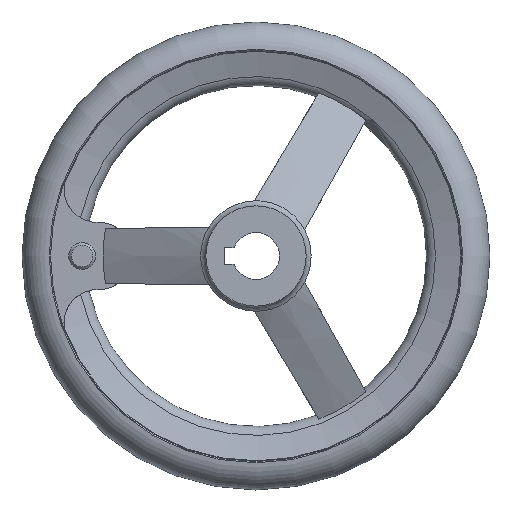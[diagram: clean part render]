
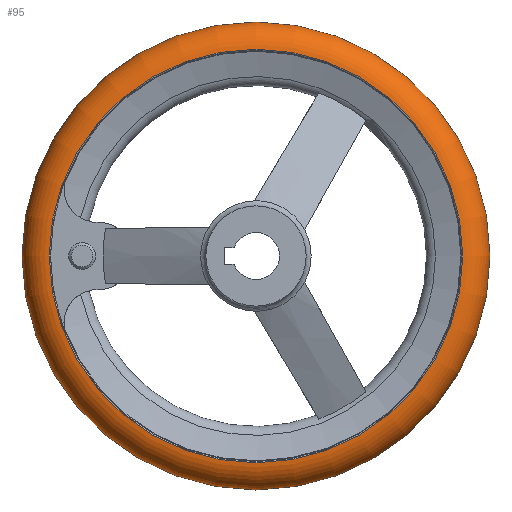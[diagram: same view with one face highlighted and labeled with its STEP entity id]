
A CAD part, left-side view. The second image highlights one B-rep face of the part: STEP entity #95.
In plain terms, the highlighted toroidal (fillet/blend) face has major radius 61.492 mm and minor radius 8.508 mm.
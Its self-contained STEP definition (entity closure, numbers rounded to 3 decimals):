
#95 = ADVANCED_FACE( '', ( #177, #178, #179 ), #180, .T. );
#177 = FACE_BOUND( '', #334, .T. );
#178 = FACE_OUTER_BOUND( '', #335, .T. );
#179 = FACE_OUTER_BOUND( '', #336, .T. );
#180 = TOROIDAL_SURFACE( '', #337, 61.492, 8.508 );
#334 = VERTEX_LOOP( '', #575 );
#335 = EDGE_LOOP( '', ( #576 ) );
#336 = EDGE_LOOP( '', ( #577 ) );
#337 = AXIS2_PLACEMENT_3D( '', #578, #579, #580 );
#575 = VERTEX_POINT( '', #860 );
#576 = ORIENTED_EDGE( '', *, *, #861, .T. );
#577 = ORIENTED_EDGE( '', *, *, #862, .F. );
#578 = CARTESIAN_POINT( '', ( 30.5, 0., 0. ) );
#579 = DIRECTION( '', ( 1., 0., 0. ) );
#580 = DIRECTION( '', ( 0., 1., 0. ) );
#860 = CARTESIAN_POINT( '', ( 30.5, 70., 0. ) );
#861 = EDGE_CURVE( '', #1036, #1036, #1037, .T. );
#862 = EDGE_CURVE( '', #1038, #1038, #1039, .T. );
#1036 = VERTEX_POINT( '', #1609 );
#1037 = CIRCLE( '', #1610, 61.854 );
#1038 = VERTEX_POINT( '', #1611 );
#1039 = CIRCLE( '', #1612, 61.854 );
#1609 = CARTESIAN_POINT( '', ( 22., 61.854, 0. ) );
#1610 = AXIS2_PLACEMENT_3D( '', #1839, #1840, #1841 );
#1611 = CARTESIAN_POINT( '', ( 39., 61.854, 0. ) );
#1612 = AXIS2_PLACEMENT_3D( '', #1842, #1843, #1844 );
#1839 = CARTESIAN_POINT( '', ( 22., 0., 0. ) );
#1840 = DIRECTION( '', ( 1., 0., 0. ) );
#1841 = DIRECTION( '', ( 0., 1., 0. ) );
#1842 = CARTESIAN_POINT( '', ( 39., 0., 0. ) );
#1843 = DIRECTION( '', ( 1., 0., 0. ) );
#1844 = DIRECTION( '', ( 0., 1., 0. ) );
